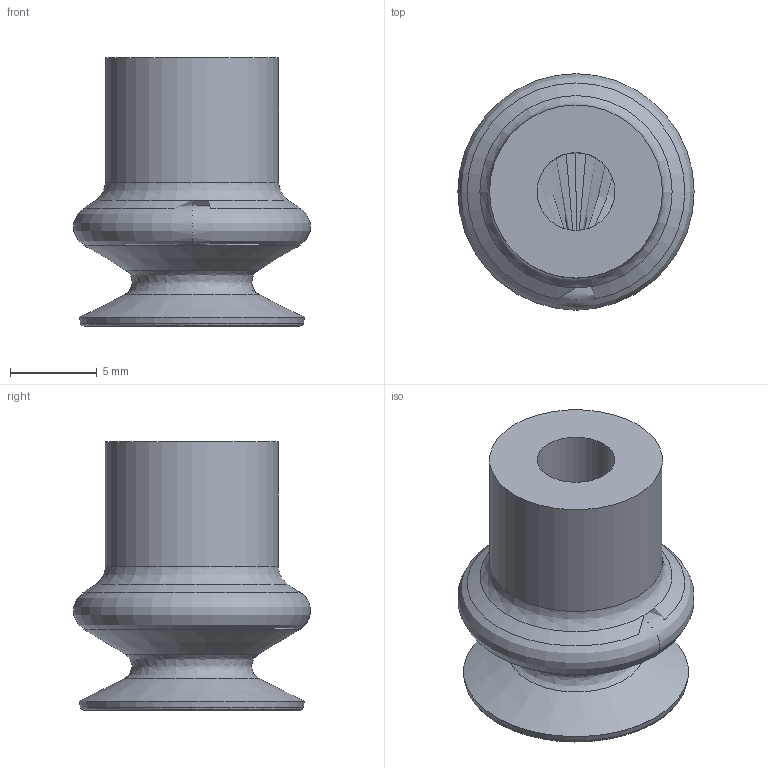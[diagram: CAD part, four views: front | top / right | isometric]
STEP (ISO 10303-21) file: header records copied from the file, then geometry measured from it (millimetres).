
FILE_DESCRIPTION(('STEP AP214'),'1');
FILE_NAME('CA.08.31.002.stp','2019-04-17T13:25:05',(' '),(' '),'Spatial InterOp 3D',' ',' ');
FILE_SCHEMA(('AUTOMOTIVE_DESIGN { 1 0 10303 214 1 1 1 1 }'));
Length unit declared in the file: millimetre
Products named in the file (1): CA.08.31.002
Bounding box: 13.66 x 13.68 x 15.52 mm (x, y, z)
Volume: 1923 mm3; surface area: 2522.6 mm2
Topology: 1 solids, 1 shells, 17 faces, 40 edges, 27 vertices
Faces by surface type: cone 5, plane 4, cylinder 4, revolution 4
Full cylindrical faces by diameter (mm): 4.5 x2, 5 x1, 10 x1
Entity records: 526 total; most frequent: CARTESIAN_POINT 86, DIRECTION 64, EDGE_LOOP 34, ORIENTED_EDGE 34, AXIS2_PLACEMENT_3D 30, FACE_OUTER_BOUND 25, STYLED_ITEM 17, PRESENTATION_STYLE_ASSIGNMENT 17
